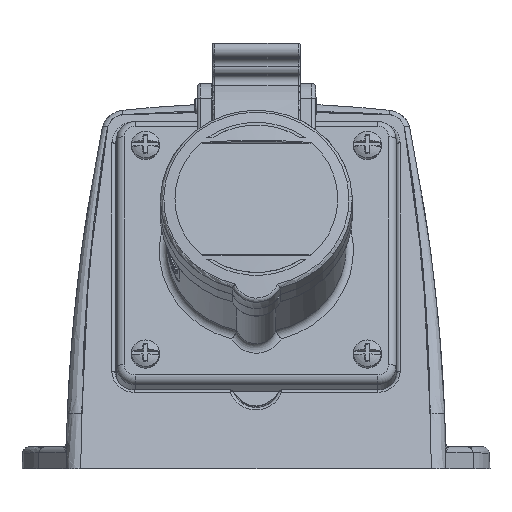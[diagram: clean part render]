
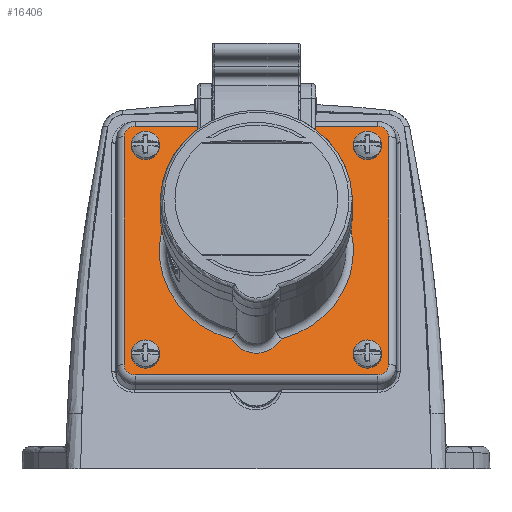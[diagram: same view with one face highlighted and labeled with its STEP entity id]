
A CAD part, front view. The second image highlights one B-rep face of the part: STEP entity #16406.
In plain terms, the highlighted planar face has unit normal (0, -0.94, 0.342).
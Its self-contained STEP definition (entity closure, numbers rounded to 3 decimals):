
#758=PLANE('',#54429);
#4993=LINE('',#88020,#8615);
#4994=LINE('',#88025,#8616);
#4995=LINE('',#88029,#8617);
#4996=LINE('',#88033,#8618);
#4997=LINE('',#88044,#8619);
#4998=LINE('',#88052,#8620);
#8615=VECTOR('',#60107,1.);
#8616=VECTOR('',#60110,1.);
#8617=VECTOR('',#60113,1.);
#8618=VECTOR('',#60116,1.);
#8619=VECTOR('',#60127,1.);
#8620=VECTOR('',#60134,1.);
#16406=ADVANCED_FACE('',(#19639,#19640,#19641,#19642,#19643,#19644),#758,
 .T.);
#19639=FACE_BOUND('',#20843,.T.);
#19640=FACE_BOUND('',#20844,.T.);
#19641=FACE_BOUND('',#20845,.T.);
#19642=FACE_BOUND('',#20846,.T.);
#19643=FACE_BOUND('',#20847,.T.);
#19644=FACE_BOUND('',#20848,.T.);
#20843=EDGE_LOOP('',(#25801));
#20844=EDGE_LOOP('',(#25802));
#20845=EDGE_LOOP('',(#25803));
#20846=EDGE_LOOP('',(#25804));
#20847=EDGE_LOOP('',(#25805,#25806,#25807,#25808,#25809,#25810,#25811,#25812));
#20848=EDGE_LOOP('',(#25813,#25814,#25815,#25816,#25817,#25818,#25819,#25820,
#25821,#25822));
#25801=ORIENTED_EDGE('',*,*,#45430,.T.);
#25802=ORIENTED_EDGE('',*,*,#45431,.T.);
#25803=ORIENTED_EDGE('',*,*,#45432,.T.);
#25804=ORIENTED_EDGE('',*,*,#45433,.T.);
#25805=ORIENTED_EDGE('',*,*,#45434,.T.);
#25806=ORIENTED_EDGE('',*,*,#45435,.F.);
#25807=ORIENTED_EDGE('',*,*,#45436,.T.);
#25808=ORIENTED_EDGE('',*,*,#45437,.F.);
#25809=ORIENTED_EDGE('',*,*,#45438,.T.);
#25810=ORIENTED_EDGE('',*,*,#45439,.F.);
#25811=ORIENTED_EDGE('',*,*,#45440,.T.);
#25812=ORIENTED_EDGE('',*,*,#45441,.F.);
#25813=ORIENTED_EDGE('',*,*,#45442,.F.);
#25814=ORIENTED_EDGE('',*,*,#45426,.T.);
#25815=ORIENTED_EDGE('',*,*,#45443,.T.);
#25816=ORIENTED_EDGE('',*,*,#45444,.T.);
#25817=ORIENTED_EDGE('',*,*,#45445,.F.);
#25818=ORIENTED_EDGE('',*,*,#45446,.F.);
#25819=ORIENTED_EDGE('',*,*,#45447,.T.);
#25820=ORIENTED_EDGE('',*,*,#45448,.T.);
#25821=ORIENTED_EDGE('',*,*,#45449,.T.);
#25822=ORIENTED_EDGE('',*,*,#45450,.F.);
#40116=VERTEX_POINT('',#88003);
#40117=VERTEX_POINT('',#88005);
#40120=VERTEX_POINT('',#88013);
#40121=VERTEX_POINT('',#88015);
#40122=VERTEX_POINT('',#88017);
#40123=VERTEX_POINT('',#88019);
#40124=VERTEX_POINT('',#88021);
#40125=VERTEX_POINT('',#88022);
#40126=VERTEX_POINT('',#88024);
#40127=VERTEX_POINT('',#88026);
#40128=VERTEX_POINT('',#88028);
#40129=VERTEX_POINT('',#88030);
#40130=VERTEX_POINT('',#88032);
#40131=VERTEX_POINT('',#88034);
#40132=VERTEX_POINT('',#88037);
#40133=VERTEX_POINT('',#88039);
#40134=VERTEX_POINT('',#88041);
#40135=VERTEX_POINT('',#88043);
#40136=VERTEX_POINT('',#88045);
#40137=VERTEX_POINT('',#88047);
#40138=VERTEX_POINT('',#88049);
#40139=VERTEX_POINT('',#88051);
#45426=EDGE_CURVE('',#40117,#40116,#52473,.T.);
#45430=EDGE_CURVE('',#40120,#40120,#52475,.T.);
#45431=EDGE_CURVE('',#40121,#40121,#52476,.T.);
#45432=EDGE_CURVE('',#40122,#40122,#52477,.T.);
#45433=EDGE_CURVE('',#40123,#40123,#52478,.T.);
#45434=EDGE_CURVE('',#40124,#40125,#4993,.T.);
#45435=EDGE_CURVE('',#40126,#40125,#52479,.T.);
#45436=EDGE_CURVE('',#40126,#40127,#4994,.T.);
#45437=EDGE_CURVE('',#40128,#40127,#52480,.T.);
#45438=EDGE_CURVE('',#40128,#40129,#4995,.T.);
#45439=EDGE_CURVE('',#40130,#40129,#52481,.T.);
#45440=EDGE_CURVE('',#40130,#40131,#4996,.T.);
#45441=EDGE_CURVE('',#40124,#40131,#52482,.T.);
#45442=EDGE_CURVE('',#40117,#40132,#52483,.T.);
#45443=EDGE_CURVE('',#40116,#40133,#52484,.T.);
#45444=EDGE_CURVE('',#40133,#40134,#52485,.T.);
#45445=EDGE_CURVE('',#40135,#40134,#52486,.T.);
#45446=EDGE_CURVE('',#40136,#40135,#4997,.T.);
#45447=EDGE_CURVE('',#40136,#40137,#52487,.T.);
#45448=EDGE_CURVE('',#40137,#40138,#52488,.T.);
#45449=EDGE_CURVE('',#40138,#40139,#52489,.T.);
#45450=EDGE_CURVE('',#40132,#40139,#4998,.T.);
#52473=CIRCLE('',#54411,2.);
#52475=CIRCLE('',#54414,2.6);
#52476=CIRCLE('',#54415,2.6);
#52477=CIRCLE('',#54416,2.6);
#52478=CIRCLE('',#54417,2.6);
#52479=CIRCLE('',#54418,3.);
#52480=CIRCLE('',#54419,3.);
#52481=CIRCLE('',#54420,3.);
#52482=CIRCLE('',#54421,3.);
#52483=CIRCLE('',#54422,27.05);
#52484=CIRCLE('',#54423,26.25);
#52485=CIRCLE('',#54424,2.);
#52486=CIRCLE('',#54425,27.05);
#52487=CIRCLE('',#54426,26.25);
#52488=CIRCLE('',#54427,7.5);
#52489=CIRCLE('',#54428,26.25);
#54411=AXIS2_PLACEMENT_3D('',#88004,#60091,#60092);
#54414=AXIS2_PLACEMENT_3D('',#88012,#60099,#60100);
#54415=AXIS2_PLACEMENT_3D('',#88014,#60101,#60102);
#54416=AXIS2_PLACEMENT_3D('',#88016,#60103,#60104);
#54417=AXIS2_PLACEMENT_3D('',#88018,#60105,#60106);
#54418=AXIS2_PLACEMENT_3D('',#88023,#60108,#60109);
#54419=AXIS2_PLACEMENT_3D('',#88027,#60111,#60112);
#54420=AXIS2_PLACEMENT_3D('',#88031,#60114,#60115);
#54421=AXIS2_PLACEMENT_3D('',#88035,#60117,#60118);
#54422=AXIS2_PLACEMENT_3D('',#88036,#60119,#60120);
#54423=AXIS2_PLACEMENT_3D('',#88038,#60121,#60122);
#54424=AXIS2_PLACEMENT_3D('',#88040,#60123,#60124);
#54425=AXIS2_PLACEMENT_3D('',#88042,#60125,#60126);
#54426=AXIS2_PLACEMENT_3D('',#88046,#60128,#60129);
#54427=AXIS2_PLACEMENT_3D('',#88048,#60130,#60131);
#54428=AXIS2_PLACEMENT_3D('',#88050,#60132,#60133);
#54429=AXIS2_PLACEMENT_3D('',#88053,#60135,#60136);
#60091=DIRECTION('',(0.,-0.94,0.342));
#60092=DIRECTION('',(1.,0.,0.));
#60099=DIRECTION('',(0.,0.94,-0.342));
#60100=DIRECTION('',(0.,-0.342,-0.94));
#60101=DIRECTION('',(0.,0.94,-0.342));
#60102=DIRECTION('',(-1.,0.,0.));
#60103=DIRECTION('',(0.,0.94,-0.342));
#60104=DIRECTION('',(0.,0.342,0.94));
#60105=DIRECTION('',(0.,0.94,-0.342));
#60106=DIRECTION('',(1.,0.,0.));
#60107=DIRECTION('',(0.,-0.342,-0.94));
#60108=DIRECTION('',(0.,0.94,-0.342));
#60109=DIRECTION('',(1.,0.,0.));
#60110=DIRECTION('',(1.,0.,0.));
#60111=DIRECTION('',(0.,0.94,-0.342));
#60112=DIRECTION('',(1.,0.,0.));
#60113=DIRECTION('',(0.,0.342,0.94));
#60114=DIRECTION('',(0.,0.94,-0.342));
#60115=DIRECTION('',(1.,0.,0.));
#60116=DIRECTION('',(-1.,0.,0.));
#60117=DIRECTION('',(0.,0.94,-0.342));
#60118=DIRECTION('',(1.,0.,0.));
#60119=DIRECTION('',(0.,-0.94,0.342));
#60120=DIRECTION('',(-1.,0.,0.));
#60121=DIRECTION('',(0.,0.94,-0.342));
#60122=DIRECTION('',(1.,0.,0.));
#60123=DIRECTION('',(0.,-0.94,0.342));
#60124=DIRECTION('',(1.,0.,0.));
#60125=DIRECTION('',(0.,-0.94,0.342));
#60126=DIRECTION('',(-1.,0.,0.));
#60127=DIRECTION('',(0.,0.342,0.94));
#60128=DIRECTION('',(0.,0.94,-0.342));
#60129=DIRECTION('',(1.,0.,0.));
#60130=DIRECTION('',(0.,0.94,-0.342));
#60131=DIRECTION('',(1.,0.,0.));
#60132=DIRECTION('',(0.,0.94,-0.342));
#60133=DIRECTION('',(1.,0.,0.));
#60134=DIRECTION('',(0.,-0.342,-0.94));
#60135=DIRECTION('',(0.,-0.94,0.342));
#60136=DIRECTION('',(-1.,0.,0.));
#88003=CARTESIAN_POINT('',(2.184,-43.737,71.055));
#88004=CARTESIAN_POINT('',(4.002,-43.452,71.836));
#88005=CARTESIAN_POINT('',(2.003,-43.462,71.81));
#88012=CARTESIAN_POINT('',(-15.998,-62.014,20.839));
#88013=CARTESIAN_POINT('',(-15.998,-62.903,18.395));
#88014=CARTESIAN_POINT('',(-15.998,-41.493,77.22));
#88015=CARTESIAN_POINT('',(-18.598,-41.493,77.22));
#88016=CARTESIAN_POINT('',(44.002,-41.493,77.22));
#88017=CARTESIAN_POINT('',(44.002,-40.604,79.663));
#88018=CARTESIAN_POINT('',(44.002,-62.014,20.839));
#88019=CARTESIAN_POINT('',(46.602,-62.014,20.839));
#88020=CARTESIAN_POINT('',(-21.748,-40.552,79.804));
#88021=CARTESIAN_POINT('',(-21.748,-40.552,79.804));
#88022=CARTESIAN_POINT('',(-21.748,-62.955,18.254));
#88023=CARTESIAN_POINT('',(-18.748,-62.955,18.254));
#88024=CARTESIAN_POINT('',(-18.748,-63.981,15.435));
#88025=CARTESIAN_POINT('',(-18.748,-63.981,15.435));
#88026=CARTESIAN_POINT('',(46.752,-63.981,15.435));
#88027=CARTESIAN_POINT('',(46.752,-62.955,18.254));
#88028=CARTESIAN_POINT('',(49.752,-62.955,18.254));
#88029=CARTESIAN_POINT('',(49.752,-62.955,18.254));
#88030=CARTESIAN_POINT('',(49.752,-40.552,79.804));
#88031=CARTESIAN_POINT('',(46.752,-40.552,79.804));
#88032=CARTESIAN_POINT('',(46.752,-39.526,82.623));
#88033=CARTESIAN_POINT('',(46.752,-39.526,82.623));
#88034=CARTESIAN_POINT('',(-18.748,-39.526,82.623));
#88035=CARTESIAN_POINT('',(-18.748,-40.552,79.804));
#88036=CARTESIAN_POINT('',(14.002,-51.753,49.029));
#88037=CARTESIAN_POINT('',(-1.998,-44.294,69.525));
#88038=CARTESIAN_POINT('',(14.002,-51.753,49.029));
#88039=CARTESIAN_POINT('',(25.821,-43.737,71.055));
#88040=CARTESIAN_POINT('',(24.002,-43.452,71.836));
#88041=CARTESIAN_POINT('',(26.002,-43.462,71.81));
#88042=CARTESIAN_POINT('',(14.002,-51.753,49.029));
#88043=CARTESIAN_POINT('',(30.002,-44.294,69.525));
#88044=CARTESIAN_POINT('',(30.002,-45.521,66.153));
#88045=CARTESIAN_POINT('',(30.002,-44.636,68.584));
#88046=CARTESIAN_POINT('',(14.002,-51.753,49.029));
#88047=CARTESIAN_POINT('',(20.696,-60.435,25.178));
#88048=CARTESIAN_POINT('',(14.002,-59.278,28.356));
#88049=CARTESIAN_POINT('',(7.308,-60.435,25.178));
#88050=CARTESIAN_POINT('',(14.002,-51.753,49.029));
#88051=CARTESIAN_POINT('',(-1.998,-44.636,68.584));
#88052=CARTESIAN_POINT('',(-1.998,-44.294,69.525));
#88053=CARTESIAN_POINT('',(-31.298,-67.247,6.461));
